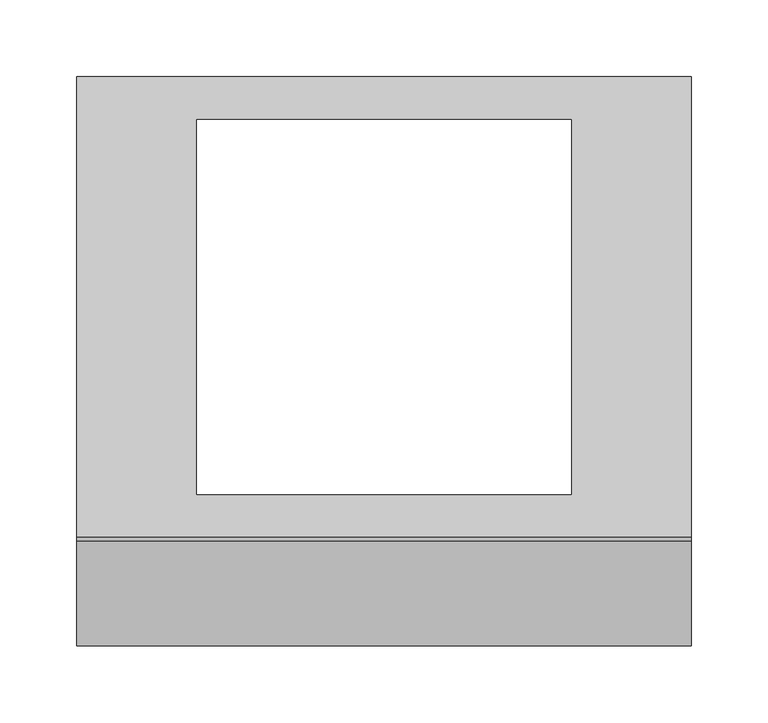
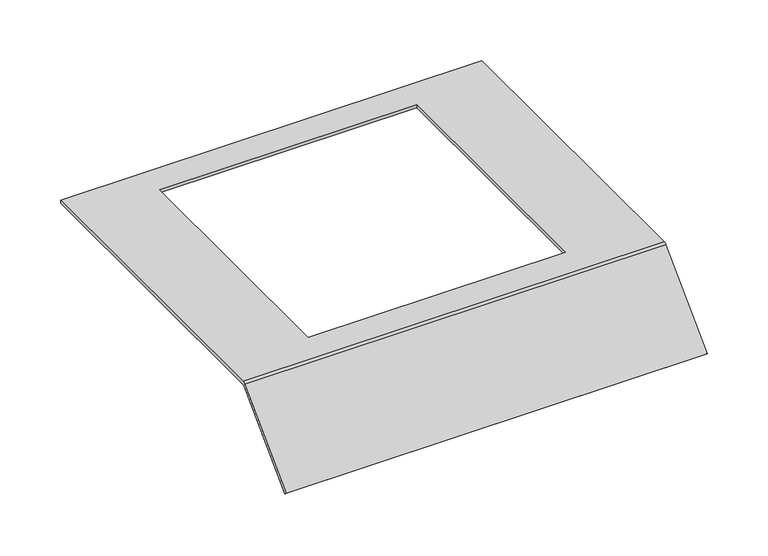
"""IFC4 building model written with IfcOpenShell, lengths in millimetres: proxy geometry, Electrical_Installation_Hager_Covers-With-Installation-Opening-Q12 : Electrical_Installation_Hager_Covers-With-Installation-Opening-Q12."""

from ifc_helpers import new_model, si_unit, frame, origin, place, context, project, spatial, polyline, circle_curve, source, transform, mapped, element, save
from ifc_brep_helpers import plane_surface, cylinder_surface, revolved_surface, advanced_brep


def electrical_fixtures_6f066a29(model_context):
    return source(origin(), model_context, "Body", "AdvancedBrep", [
        advanced_brep(
        [(0.0, 150.0, 40.5), (0.0, 150.0, 37.5), (0.0, -149.8229541, 37.5), (0.0, -150.8322972, 37.0819164), (0.0, -218.712807, -30.7985934), (0.0, -220.8341273, -28.6772731), (0.0, -152.8206472, 39.336207), (0.0, -150.0110025, 40.5), (400.0, 150.0, 40.5), (400.0, -150.0110025, 40.5), (400.0, -152.8206472, 39.336207), (400.0, -220.8341273, -28.6772731), (400.0, -218.712807, -30.7985934), (400.0, -150.8322972, 37.0819164), (400.0, -149.8229541, 37.5), (400.0, 150.0, 37.5), (322.0, 122.0, 37.5), (78.0, 122.0, 37.5), (78.0, -122.0, 37.5), (322.0, -122.0, 37.5), (78.0, 122.0, 40.5), (322.0, 122.0, 40.5), (322.0, -122.0, 40.5), (78.0, -122.0, 40.5)],
        [
            (0, 1),
            (1, 2),
            (2, 3, circle_curve(frame((0.0, -149.8229541, 36.0725733), z_axis=(1.0, 0.0, 0.0), x_axis=(0.0, 1.0, 0.0)), 1.4274267)),
            (3, 4),
            (4, 5),
            (5, 6),
            (6, 7, circle_curve(frame((0.0, -150.0110025, 36.5265623), z_axis=(-1.0, 0.0, 0.0), x_axis=(0.0, 1.0, 0.0)), 3.9734377)),
            (7, 0),
            (8, 9),
            (9, 10, circle_curve(frame((400.0, -150.0110025, 36.5265623), z_axis=(1.0, 0.0, 0.0), x_axis=(0.0, 1.0, 0.0)), 3.9734377)),
            (10, 11),
            (11, 12),
            (12, 13),
            (13, 14, circle_curve(frame((400.0, -149.8229541, 36.0725733), z_axis=(-1.0, 0.0, 0.0), x_axis=(0.0, 1.0, 0.0)), 1.4274267)),
            (14, 15),
            (15, 8),
            (0, 8),
            (15, 1),
            (14, 2),
            (16, 17),
            (17, 18),
            (18, 19),
            (19, 16),
            (13, 3),
            (12, 4),
            (11, 5),
            (10, 6),
            (9, 7),
            (20, 21),
            (21, 22),
            (22, 23),
            (23, 20),
            (16, 21),
            (20, 17),
            (23, 18),
            (22, 19),
        ],
        [
            plane_surface(frame((0.0, 0.3269864, 15.0), z_axis=(-1.0, 0.0, 0.0), x_axis=(0.0, 0.0, 1.0))),
            plane_surface(frame((400.0, 0.3269864, 15.0), z_axis=(1.0, 0.0, 0.0), x_axis=(0.0, 0.0, 1.0))),
            plane_surface(frame((0.0, 150.0, 40.5), z_axis=(0.0, 1.0, 0.0), x_axis=(1.0, 0.0, 0.0))),
            plane_surface(frame((0.0, 150.0, 37.5), z_axis=(0.0, 0.0, -1.0), x_axis=(1.0, 0.0, 0.0))),
            revolved_surface(polyline([(400.0, -148.3955274, 36.0725733), (0.0, -148.3955274, 36.0725733)]), (0.0, -149.8229541, 36.0725733), (1.0, 0.0, 0.0)),
            plane_surface(frame((0.0, -150.8322972, 37.0819164), z_axis=(0.0, 0.7071067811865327, -0.7071067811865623), x_axis=(1.0, 0.0, 0.0))),
            plane_surface(frame((0.0, -218.712807, -30.7985934), z_axis=(0.0, -0.7071067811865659, -0.7071067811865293), x_axis=(1.0, 0.0, 0.0))),
            plane_surface(frame((0.0, -220.8341273, -28.6772731), z_axis=(0.0, -0.7071067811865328, 0.7071067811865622), x_axis=(1.0, 0.0, 0.0))),
            cylinder_surface(frame((0.0, -150.0110025, 36.5265623), z_axis=(-1.0, 0.0, 0.0), x_axis=(0.0, 1.0, 0.0)), 3.9734377),
            plane_surface(frame((0.0, -150.0110025, 40.5), z_axis=(0.0, 0.0, 1.0), x_axis=(1.0, 0.0, 0.0))),
            plane_surface(frame((322.0, 122.0, 250.0), z_axis=(0.0, -1.0, 0.0), x_axis=(0.0, 0.0, -1.0))),
            plane_surface(frame((78.0, 122.0, 250.0), z_axis=(1.0, 0.0, 0.0), x_axis=(0.0, 0.0, -1.0))),
            plane_surface(frame((78.0, -122.0, 250.0), z_axis=(0.0, 1.0, 0.0), x_axis=(0.0, 0.0, -1.0))),
            plane_surface(frame((322.0, -122.0, 250.0), z_axis=(-1.0, 0.0, 0.0), x_axis=(0.0, 0.0, -1.0))),
        ],
        [
            (0, [[1, 2, 3, 4, 5, 6, 7, 8]]),
            (1, [[9, 10, 11, 12, 13, 14, 15, 16]]),
            (2, [[-1, 17, -16, 18]]),
            (3, [[-2, -18, -15, 19], [20, 21, 22, 23]]),
            (4, [[-3, -19, -14, 24]]),
            (5, [[-4, -24, -13, 25]]),
            (6, [[-5, -25, -12, 26]]),
            (7, [[-6, -26, -11, 27]]),
            (8, [[-7, -27, -10, 28]]),
            (9, [[-8, -28, -9, -17], [29, 30, 31, 32]]),
            (10, [[33, -29, 34, -20]]),
            (11, [[-34, -32, 35, -21]]),
            (12, [[-35, -31, 36, -22]]),
            (13, [[-33, -23, -36, -30]]),
        ],
    ),
    ])


if __name__ == "__main__":
    model = new_model("IFC4")
    model_context = context("Model", 3, world=origin())
    ifc_project = project(units=[si_unit("LENGTHUNIT", "METRE", prefix="MILLI")], contexts=[model_context])
    site = spatial("IfcSite", under=ifc_project)
    building = spatial("IfcBuilding", under=site)
    placement = place(None, origin())
    electrical_fixtures_shape = electrical_fixtures_6f066a29(model_context)
    element("IfcBuildingElementProxy", 1, Name="Electrical_Installation_Hager_Covers-With-Installation-Opening-Q12 : Electrical_Installation_Hager_Covers-With-Installation-Opening-Q12", ObjectType="Electrical_Installation_Hager_Covers-With-Installation-Opening-Q12 : Electrical_Installation_Hager_Covers-With-Installation-Opening-Q12", at=placement, inside=building, context=model_context, shape_type="MappedRepresentation", body=[
        mapped(electrical_fixtures_shape, transform((0.0, 0.0, 0.0), x_axis=(1.0, 0.0, 0.0), y_axis=(0.0, 1.0, 0.0), z_axis=(0.0, 0.0, 1.0))),
    ])
    save(model, "model.ifc")
